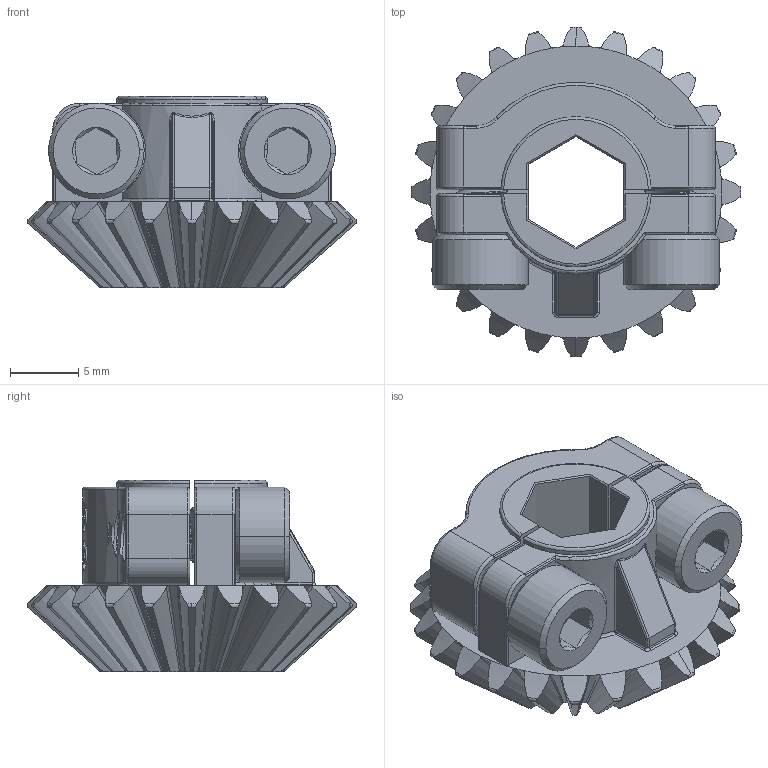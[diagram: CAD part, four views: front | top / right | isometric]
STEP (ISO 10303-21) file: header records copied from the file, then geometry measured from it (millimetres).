
FILE_DESCRIPTION (( 'STEP AP203' ), '1' );
FILE_NAME ('2320-4008-0024 Assembly.STEP', '2024-05-29T18:51:49', ( '' ), ( '' ), 'SwSTEP 2.0', 'SolidWorks 2016', '' );
FILE_SCHEMA (( 'CONFIG_CONTROL_DESIGN' ));
Length unit declared in the file: millimetre
Products named in the file (4): 2800-0004-0008_90128A207; 2320-4008-0024 Strap; 2302-4008-0024 Main Gear; 2320-4008-0024 Assembly
Assembly tree (4 placements, depth 2):
  2320-4008-0024 Assembly
    2302-4008-0024 Main Gear
    2800-0004-0008_90128A207  x2
    2320-4008-0024 Strap
Bounding box: 24.14 x 24.14 x 14 mm (x, y, z)
Volume: 2816.9 mm3; surface area: 3265.7 mm2
Topology: 4 solids, 4 shells, 661 faces, 1792 edges, 1148 vertices
Faces by surface type: cylinder 257, bspline 149, plane 94, cone 80, torus 77, sphere 4
Entity records: 39399 total; most frequent: CARTESIAN_POINT 26337, ORIENTED_EDGE 3198, DIRECTION 1989, EDGE_CURVE 1599, VERTEX_POINT 1025, AXIS2_PLACEMENT_3D 801, B_SPLINE_CURVE_WITH_KNOTS 640, EDGE_LOOP 604
